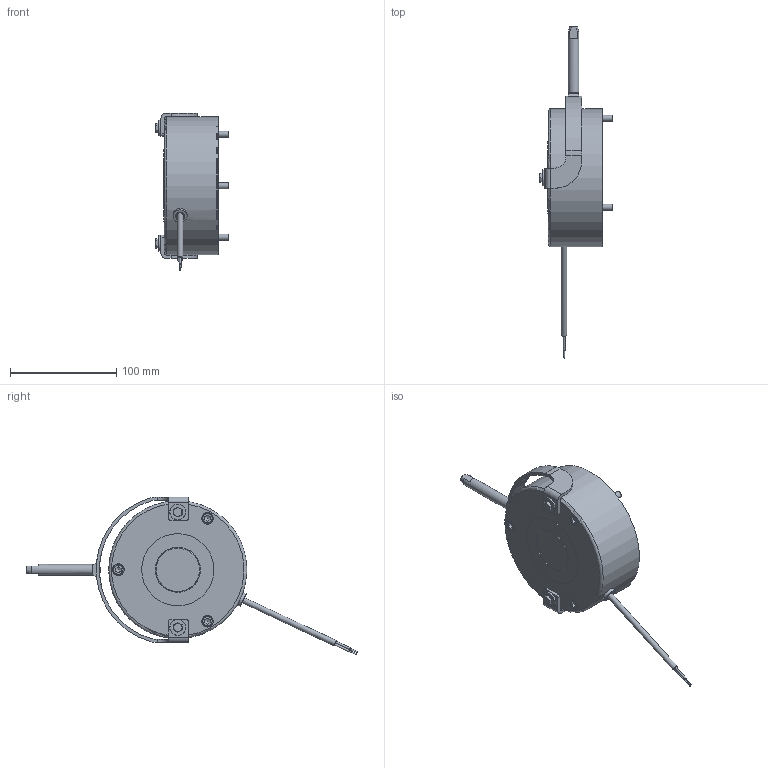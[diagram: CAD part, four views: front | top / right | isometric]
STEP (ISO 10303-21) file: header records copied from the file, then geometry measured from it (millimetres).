
FILE_DESCRIPTION(/* description */ (''),/* implementation_level */ '2;1');
FILE_NAME(/* name */ 'C:\SapWorkDir\Inventor\IP1\ConvertTempPath\5028628_IPT_000.ipt.stp',/* time_stamp */ '2020-09-11T13:46:29+02:00',/* author */ ('STRATE'),/* organization */ (''),/* preprocessor_version */ 'ST-DEVELOPER v17',/* originating_system */ 'Autodesk Inventor 2018',/* authorisation */ '');
FILE_SCHEMA (('AUTOMOTIVE_DESIGN { 1 0 10303 214 3 1 1 }'));
Length unit declared in the file: millimetre
Products named in the file (1): 5028628
Bounding box: 69.5 x 312.79 x 148.81 mm (x, y, z)
Volume: 596994 mm3; surface area: 130154.9 mm2
Topology: 3 solids, 3 shells, 552 faces, 1474 edges, 992 vertices
Faces by surface type: cylinder 308, plane 164, cone 60, torus 20
Full cylindrical faces by diameter (mm): 1 x2, 1.85 x2, 5 x4, 5.3 x5, 5.5 x2, 6 x8, 6.2 x3, 6.3 x2, 6.5 x5, 6.6 x1, 6.9 x7, 8.5 x2, 8.8 x2, 9.2 x2, 9.9 x3, 10 x6, 11 x3, 13.2 x1, 15 x2, 34 x1, 41.9 x1, 42 x2, 44 x2, 65.7 x2, 66.1 x2, 68 x1, 95 x1, 120 x1, 122 x1, 128 x1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
Entity records: 18944 total; most frequent: CARTESIAN_POINT 4380, ORIENTED_EDGE 2950, DIRECTION 2914, EDGE_CURVE 1475, AXIS2_PLACEMENT_3D 1189, VERTEX_POINT 992, EDGE_LOOP 647, CIRCLE 636
